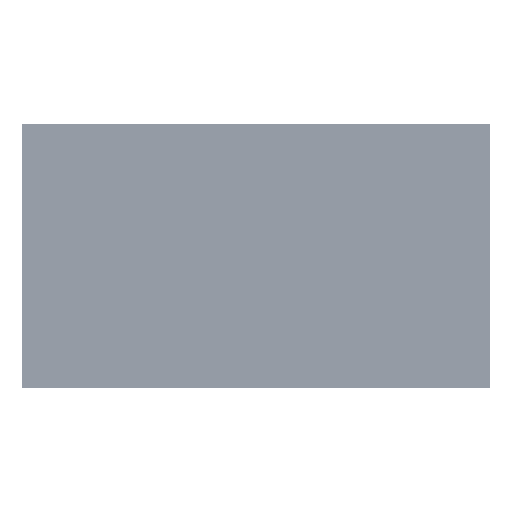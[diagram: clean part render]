
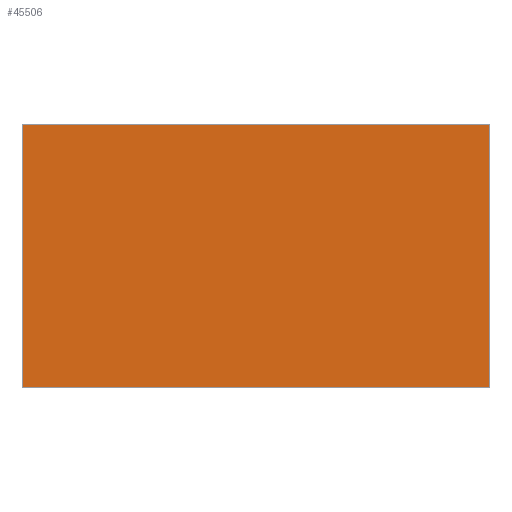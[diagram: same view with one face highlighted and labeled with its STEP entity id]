
A CAD part, top view. The second image highlights one B-rep face of the part: STEP entity #45506.
In plain terms, the highlighted planar face has unit normal (0, 0, 1).
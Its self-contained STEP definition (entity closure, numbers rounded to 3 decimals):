
#45071=DIRECTION('',(1.,0.,0.));
#45072=VECTOR('',#45071,1209.6);
#45073=CARTESIAN_POINT('',(-604.,339.45,120.85));
#45074=LINE('',#45073,#45072);
#45075=DIRECTION('',(0.,-1.,0.));
#45076=VECTOR('',#45075,680.6);
#45077=CARTESIAN_POINT('',(605.6,339.45,120.85));
#45078=LINE('',#45077,#45076);
#45079=DIRECTION('',(-1.,0.,0.));
#45080=VECTOR('',#45079,1209.6);
#45081=CARTESIAN_POINT('',(605.6,-341.15,120.85));
#45082=LINE('',#45081,#45080);
#45083=DIRECTION('',(0.,1.,0.));
#45084=VECTOR('',#45083,680.6);
#45085=CARTESIAN_POINT('',(-604.,-341.15,
120.85));
#45086=LINE('',#45085,#45084);
#45451=CARTESIAN_POINT('',(-604.,339.45,120.85));
#45452=CARTESIAN_POINT('',(605.6,339.45,120.85));
#45453=VERTEX_POINT('',#45451);
#45454=VERTEX_POINT('',#45452);
#45455=CARTESIAN_POINT('',(605.6,-341.15,120.85));
#45456=VERTEX_POINT('',#45455);
#45457=CARTESIAN_POINT('',(-604.,-341.15,
120.85));
#45458=VERTEX_POINT('',#45457);
#45491=CARTESIAN_POINT('',(0.,-0.05,
120.85));
#45492=DIRECTION('',(0.,0.,1.));
#45493=DIRECTION('',(1.,0.,0.));
#45494=AXIS2_PLACEMENT_3D('',#45491,#45492,#45493);
#45495=PLANE('',#45494);
#45497=ORIENTED_EDGE('',*,*,#45496,.T.);
#45499=ORIENTED_EDGE('',*,*,#45498,.T.);
#45501=ORIENTED_EDGE('',*,*,#45500,.T.);
#45503=ORIENTED_EDGE('',*,*,#45502,.T.);
#45504=EDGE_LOOP('',(#45497,#45499,#45501,#45503));
#45505=FACE_OUTER_BOUND('',#45504,.F.);
#45496=EDGE_CURVE('',#45453,#45454,#45074,.T.);
#45498=EDGE_CURVE('',#45454,#45456,#45078,.T.);
#45500=EDGE_CURVE('',#45456,#45458,#45082,.T.);
#45502=EDGE_CURVE('',#45458,#45453,#45086,.T.);
#45506=ADVANCED_FACE('',(#45505),#45495,.T.);
